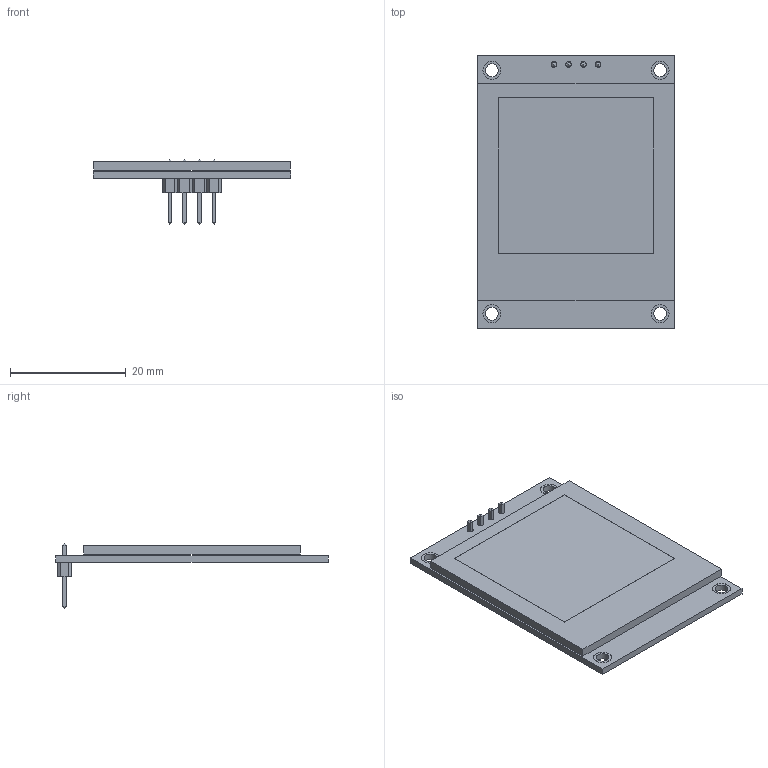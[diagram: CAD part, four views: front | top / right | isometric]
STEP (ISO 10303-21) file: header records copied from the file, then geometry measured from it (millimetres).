
FILE_DESCRIPTION(('FreeCAD Model'),'2;1');
FILE_NAME('Open CASCADE Shape Model','2026-01-23T12:30:11',( 'kicad StepUp'),('ksu MCAD'),'Open CASCADE STEP processor 7.8', 'FreeCAD','Unknown');
FILE_SCHEMA(('AUTOMOTIVE_DESIGN { 1 0 10303 214 1 1 1 1 }'));
Length unit declared in the file: millimetre
Products named in the file (1): Group010
Bounding box: 34 x 47 x 11.3 mm (x, y, z)
Volume: 3679.8 mm3; surface area: 6288.1 mm2
Topology: 2 solids, 2 shells, 136 faces, 290 edges, 180 vertices
Faces by surface type: plane 120, cylinder 16
Full cylindrical faces by diameter (mm): 1 x4, 2.2 x4, 3.1 x8
Entity records: 4558 total; most frequent: CARTESIAN_POINT 607, DIRECTION 596, ORIENTED_EDGE 580, EDGE_CURVE 290, LINE 258, VECTOR 258, VERTEX_POINT 180, AXIS2_PLACEMENT_3D 169
